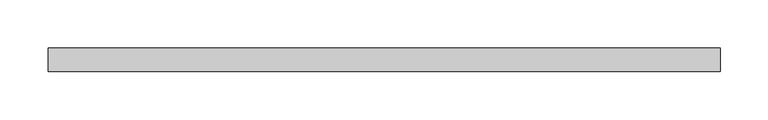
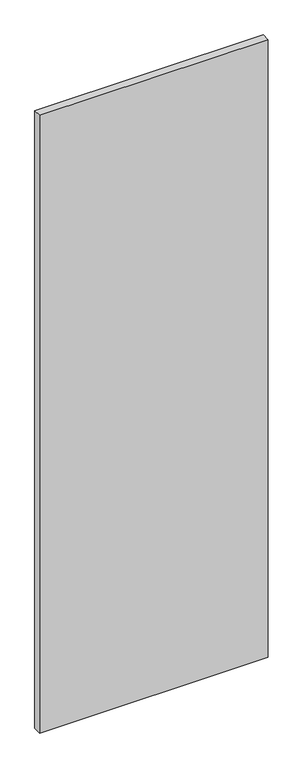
"""IFC4 building model written with IfcOpenShell, lengths in millimetres: plate geometry, Системная панель : С остеклением."""

import ifcopenshell
import ifcopenshell.guid

model = None  # the IFC model being written
_history = None  # IfcOwnerHistory: only IFC2X3 demands one
_inside = {}  # id of a spatial element -> (the spatial element, [elements in it])
_under = {}  # id of a project, library or spatial element -> (it, [spatial elements below it])
_declared = {}  # id of a project -> (the project, [libraries it declares])
_typed = {}  # id of a type object -> (the type object, [elements of that type])
_made_of = {}  # id of a material, layer set ... -> (it, [elements and type objects made of it])


def new_model(schema):
    """Start an empty IFC model of exactly this schema.

    Asked for "IFC4X3", IfcOpenShell would pick the latest addendum, in which some entities
    have other attributes; the version numbers below select the first issue.
    IFC2X3 requires an IfcOwnerHistory on every rooted entity: one is made here for all.
    """
    global model, _history
    if schema == "IFC4X3":
        model = ifcopenshell.file(schema_version=(4, 3, 0, 0))
    else:
        model = ifcopenshell.file(schema=schema)
    _inside.clear()
    _under.clear()
    _declared.clear()
    _typed.clear()
    _made_of.clear()
    _history = None
    if model.schema == "IFC2X3":
        org = make("IfcOrganization", Name="unknown")
        user = make(
            "IfcPersonAndOrganization",
            ThePerson=make("IfcPerson", FamilyName="unknown"),
            TheOrganization=org,
        )
        app = make(
            "IfcApplication",
            ApplicationDeveloper=org,
            Version="unknown",
            ApplicationFullName="unknown",
            ApplicationIdentifier="unknown",
        )
        _history = make(
            "IfcOwnerHistory",
            OwningUser=user,
            OwningApplication=app,
            ChangeAction="ADDED",
            CreationDate=0,
        )
    return model


def make(cls, **values):
    """One entity of the class cls with the attributes given. An attribute that is None is left unset."""
    return model.create_entity(
        cls, **{name: value for name, value in values.items() if value is not None}
    )


def rooted(cls, **values):
    """An entity with a GlobalId (a new one), such as an element, a storey or a relation."""
    return make(cls, GlobalId=ifcopenshell.guid.new(), OwnerHistory=_history, **values)


def si_unit(unit_type, name, prefix=None):
    """IfcSIUnit, for example si_unit("LENGTHUNIT", "METRE", prefix="MILLI")."""
    return make("IfcSIUnit", UnitType=unit_type, Prefix=prefix, Name=name)


def assignment(units):
    """IfcUnitAssignment: the units of a project."""
    return None if units is None else make("IfcUnitAssignment", Units=units)


def point(xyz):
    """IfcCartesianPoint."""
    return None if xyz is None else make("IfcCartesianPoint", Coordinates=xyz)


def direction(xyz):
    """IfcDirection."""
    return None if xyz is None else make("IfcDirection", DirectionRatios=xyz)


def frame(location, z_axis=None, x_axis=None):
    """IfcAxis2Placement3D, a coordinate frame: its origin and axes. An axis left out is left unset."""
    return make(
        "IfcAxis2Placement3D",
        Location=point(location),
        Axis=direction(z_axis),
        RefDirection=direction(x_axis),
    )


def origin():
    """The frame at (0, 0, 0) with its axes left unset."""
    return frame((0.0, 0.0, 0.0))


def origin_with_axes():
    """The frame at (0, 0, 0) with the z axis (0, 0, 1) and the x axis (1, 0, 0) written out."""
    return frame((0.0, 0.0, 0.0), z_axis=(0.0, 0.0, 1.0), x_axis=(1.0, 0.0, 0.0))


def place(relative_to, where):
    """IfcLocalPlacement: puts the frame where relative to a parent placement (None: the world)."""
    return make(
        "IfcLocalPlacement", PlacementRelTo=relative_to, RelativePlacement=where
    )


def context(
    kind, dimensions, precision=None, world=None, true_north=None, identifier=None
):
    """IfcGeometricRepresentationContext, for example the 3D "Model" context."""
    return make(
        "IfcGeometricRepresentationContext",
        ContextIdentifier=identifier,
        ContextType=kind,
        CoordinateSpaceDimension=dimensions,
        Precision=precision,
        WorldCoordinateSystem=world,
        TrueNorth=true_north,
    )


def project(units=None, contexts=None):
    """IfcProject with its units and contexts."""
    return rooted(
        "IfcProject",
        Name="project",
        RepresentationContexts=contexts,
        UnitsInContext=assignment(units),
    )


def spatial(cls, under=None, at=None, **own):
    """A site, building, storey or space (cls), placed at a placement, below another one or the project."""
    s = rooted(cls, ObjectPlacement=at, **own)
    if under is not None:
        _under.setdefault(under.id(), (under, []))[1].append(s)
    return s


def polyline(points):
    """IfcPolyline through the points."""
    return make("IfcPolyline", Points=[point(p) for p in points])


def outline(outer, holes=None, kind="AREA"):
    """IfcArbitraryClosedProfileDef: a profile drawn as a closed curve; with holes, ...WithVoids."""
    if holes is None:
        return make("IfcArbitraryClosedProfileDef", ProfileType=kind, OuterCurve=outer)
    return make(
        "IfcArbitraryProfileDefWithVoids",
        ProfileType=kind,
        OuterCurve=outer,
        InnerCurves=holes,
    )


def extrude(swept, where, along, depth):
    """IfcExtrudedAreaSolid: the profile swept, set in the frame where, extruded along a direction by depth."""
    return make(
        "IfcExtrudedAreaSolid",
        SweptArea=swept,
        Position=where,
        ExtrudedDirection=direction(along),
        Depth=depth,
    )


def shape(context_of_items, identifier, shape_type, items):
    """IfcShapeRepresentation: the items that make up one representation, for example the "Body"."""
    return make(
        "IfcShapeRepresentation",
        ContextOfItems=context_of_items,
        RepresentationIdentifier=identifier,
        RepresentationType=shape_type,
        Items=items,
    )


def source(mapping_origin, context_of_items, identifier, shape_type, items):
    """IfcRepresentationMap: a shape defined once, which mapped items show again and again."""
    return make(
        "IfcRepresentationMap",
        MappingOrigin=mapping_origin,
        MappedRepresentation=shape(context_of_items, identifier, shape_type, items),
    )


def transform(
    local_origin,
    x_axis=None,
    y_axis=None,
    z_axis=None,
    scale=None,
    scale2=None,
    scale3=None,
    uniform=True,
):
    """IfcCartesianTransformationOperator3D, or its non-uniform kind. x_axis, y_axis, z_axis: its Axis1, 2, 3."""
    if uniform:
        return make(
            "IfcCartesianTransformationOperator3D",
            Axis1=direction(x_axis),
            Axis2=direction(y_axis),
            LocalOrigin=point(local_origin),
            Scale=scale,
            Axis3=direction(z_axis),
        )
    return make(
        "IfcCartesianTransformationOperator3DnonUniform",
        Axis1=direction(x_axis),
        Axis2=direction(y_axis),
        LocalOrigin=point(local_origin),
        Scale=scale,
        Axis3=direction(z_axis),
        Scale2=scale2,
        Scale3=scale3,
    )


def mapped(mapping_source, mapping_target):
    """IfcMappedItem: shows the shape of a source again, moved by a transform."""
    return make(
        "IfcMappedItem", MappingSource=mapping_source, MappingTarget=mapping_target
    )


def made_of(thing, what):
    """Note that an element or type object is made of a material, layer set ...; save() writes the relation."""
    if what is not None:
        _made_of.setdefault(what.id(), (what, []))[1].append(thing)
    return thing


def element(
    cls,
    number,
    at=None,
    inside=None,
    cuts=None,
    type_object=None,
    material=None,
    context=None,
    identifier="Body",
    shape_type=None,
    held_by="IfcProductDefinitionShape",
    body=None,
    shapes=None,
    **own,
):
    """One element of the class cls, such as IfcWall. Its Tag is "e" and its number.

    at: its placement. inside: the storey or other place that contains it. cuts: it is an
    opening in that element (IfcRelVoidsElement). A single representation is given by context,
    identifier, shape_type and body (its items); several are given by shapes. held_by: the class
    of the entity that holds the representations. save() writes the other relations.
    """
    e = rooted(cls, Tag="e%d" % number, ObjectPlacement=at, **own)
    if body is not None:
        shapes = [shape(context, identifier, shape_type, body)]
    if shapes is not None:
        e.Representation = make(held_by, Representations=shapes)
    if inside is not None:
        _inside.setdefault(inside.id(), (inside, []))[1].append(e)
    if cuts is not None:
        rooted(
            "IfcRelVoidsElement", RelatingBuildingElement=cuts, RelatedOpeningElement=e
        )
    if type_object is not None:
        _typed.setdefault(type_object.id(), (type_object, []))[1].append(e)
    return made_of(e, material)


def aggregate(whole, parts):
    """IfcRelAggregates: a whole, such as a stair, and the parts it consists of."""
    return rooted("IfcRelAggregates", RelatingObject=whole, RelatedObjects=parts)


def save(model, path):
    """Write the relations noted so far, then the file.

    IfcRelAggregates (storeys below a building ...), IfcRelContainedInSpatialStructure (elements
    in a storey), IfcRelDefinesByType, IfcRelAssociatesMaterial and IfcRelDeclares: one each for
    every whole, place, type object, material and project.
    """
    for whole, parts in _under.values():
        aggregate(whole, parts)
    for where, things in _inside.values():
        rooted(
            "IfcRelContainedInSpatialStructure",
            RelatedElements=things,
            RelatingStructure=where,
        )
    for kind, things in _typed.values():
        rooted("IfcRelDefinesByType", RelatedObjects=things, RelatingType=kind)
    for what, things in _made_of.values():
        rooted("IfcRelAssociatesMaterial", RelatedObjects=things, RelatingMaterial=what)
    for by, libraries in _declared.values():
        rooted("IfcRelDeclares", RelatingContext=by, RelatedDefinitions=libraries)
    model.write(path)


def plate_86efe793(model_context):
    return source(origin(), model_context, "Body", "SweptSolid", [
        extrude(outline(polyline([(350.0, 24.5), (-350.0, 24.5), (-350.0, 49.5), (350.0, 49.5), (350.0, 24.5)])), origin_with_axes(), (0.0, 0.0, 1.0), 2000.0),
    ])


if __name__ == "__main__":
    model = new_model("IFC4")
    model_context = context("Model", 3, world=origin())
    ifc_project = project(units=[si_unit("LENGTHUNIT", "METRE", prefix="MILLI")], contexts=[model_context])
    site = spatial("IfcSite", under=ifc_project)
    building = spatial("IfcBuilding", under=site)
    placement = place(None, origin())
    plate_shape = plate_86efe793(model_context)
    element("IfcPlate", 1, ObjectType="Системная панель : С остеклением", at=placement, inside=building, context=model_context, shape_type="MappedRepresentation", body=[
        mapped(plate_shape, transform((0.0, 0.0, 0.0), x_axis=(1.0, 0.0, 0.0), y_axis=(0.0, 1.0, 0.0), z_axis=(0.0, 0.0, 1.0))),
    ])
    save(model, "model.ifc")
